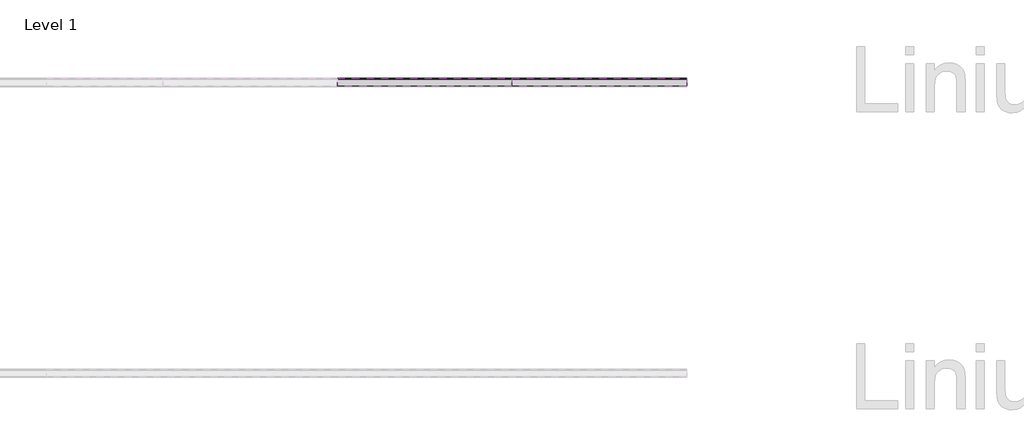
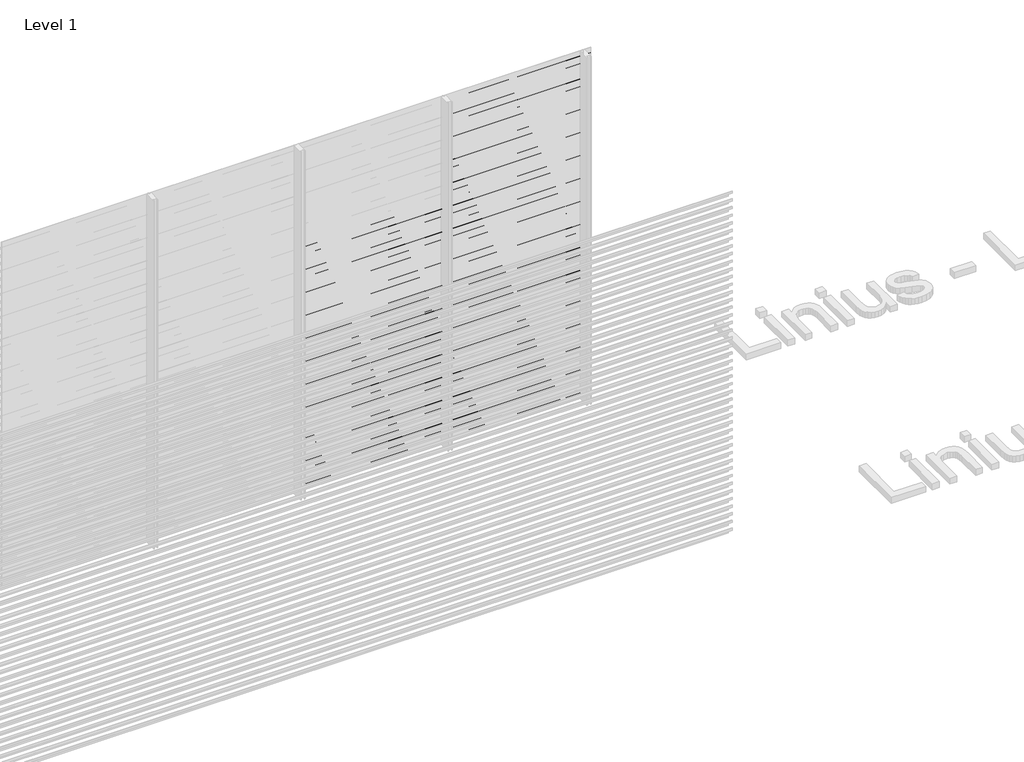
# One storey, part 82 of 540: 77 proxies.
"""IFC4 building model written with IfcOpenShell, lengths in millimetres."""

from ifc_helpers import new_model, si_unit, frame, origin, place, context, project, spatial, polyline, outline, extrude, element, save

model = new_model("IFC4")

# Units and contexts
model_context = context("Model", 3, world=origin())
ifc_project = project(units=[si_unit("LENGTHUNIT", "METRE", prefix="MILLI")], contexts=[model_context])

# Site, building, storey
site = spatial("IfcSite", under=ifc_project)
building = spatial("IfcBuilding", under=site)
storey = spatial("IfcBuildingStorey", under=building, Name="Level 1", Elevation=0.0)

# Proxies
placement = place(None, origin())
element("IfcBuildingElementProxy", 1, Name="Wall Sweeps", at=placement, inside=storey, context=model_context, shape_type="SweptSolid", body=[
    extrude(outline(polyline([(51581.0540136, 2913.5), (51581.0540136, 2893.5), (51579.8040136, 2894.2216933), (51579.8040136, 2912.7872415), (51526.0540136, 2950.3158044), (51526.0540136, 2970.0), (51527.3040136, 2970.0), (51527.3040136, 2951.0285629), (51581.0540136, 2913.5)])), frame((5266.6208095, 0.0, 0.0), z_axis=(1.0, 0.0, 0.0), x_axis=(0.0, 1.0, 0.0)), (0.0, 0.0, 1.0), 1200.0000002),
])
element("IfcBuildingElementProxy", 2, Name="Wall Sweeps", at=placement, inside=storey, context=model_context, shape_type="SweptSolid", body=[
    extrude(outline(polyline([(51581.0540136, 2847.5), (51581.0540136, 2827.5), (51579.8040136, 2828.2216933), (51579.8040136, 2846.7872415), (51526.0540136, 2884.3158044), (51526.0540136, 2904.0), (51527.3040136, 2904.0), (51527.3040136, 2885.0285629), (51581.0540136, 2847.5)])), frame((5266.6208095, 0.0, 0.0), z_axis=(1.0, 0.0, 0.0), x_axis=(0.0, 1.0, 0.0)), (0.0, 0.0, 1.0), 1200.0000002),
])
element("IfcBuildingElementProxy", 3, Name="Wall Sweeps", at=placement, inside=storey, context=model_context, shape_type="SweptSolid", body=[
    extrude(outline(polyline([(51581.0540136, 2781.5), (51581.0540136, 2761.5), (51579.8040136, 2762.2216933), (51579.8040136, 2780.7872415), (51526.0540136, 2818.3158044), (51526.0540136, 2838.0), (51527.3040136, 2838.0), (51527.3040136, 2819.0285629), (51581.0540136, 2781.5)])), frame((5266.6208095, 0.0, 0.0), z_axis=(1.0, 0.0, 0.0), x_axis=(0.0, 1.0, 0.0)), (0.0, 0.0, 1.0), 1200.0000002),
])
element("IfcBuildingElementProxy", 4, Name="Wall Sweeps", at=placement, inside=storey, context=model_context, shape_type="SweptSolid", body=[
    extrude(outline(polyline([(51581.0540136, 2715.5), (51581.0540136, 2695.5), (51579.8040136, 2696.2216933), (51579.8040136, 2714.7872415), (51526.0540136, 2752.3158044), (51526.0540136, 2772.0), (51527.3040136, 2772.0), (51527.3040136, 2753.0285629), (51581.0540136, 2715.5)])), frame((5266.6208095, 0.0, 0.0), z_axis=(1.0, 0.0, 0.0), x_axis=(0.0, 1.0, 0.0)), (0.0, 0.0, 1.0), 1200.0000002),
])
element("IfcBuildingElementProxy", 5, Name="Wall Sweeps", at=placement, inside=storey, context=model_context, shape_type="SweptSolid", body=[
    extrude(outline(polyline([(51581.0540136, 2649.5), (51581.0540136, 2629.5), (51579.8040136, 2630.2216933), (51579.8040136, 2648.7872415), (51526.0540136, 2686.3158044), (51526.0540136, 2706.0), (51527.3040136, 2706.0), (51527.3040136, 2687.0285629), (51581.0540136, 2649.5)])), frame((5266.6208095, 0.0, 0.0), z_axis=(1.0, 0.0, 0.0), x_axis=(0.0, 1.0, 0.0)), (0.0, 0.0, 1.0), 1200.0000002),
])
element("IfcBuildingElementProxy", 6, Name="Wall Sweeps", at=placement, inside=storey, context=model_context, shape_type="SweptSolid", body=[
    extrude(outline(polyline([(51581.0540136, 2583.5), (51581.0540136, 2563.5), (51579.8040136, 2564.2216933), (51579.8040136, 2582.7872415), (51526.0540136, 2620.3158044), (51526.0540136, 2640.0), (51527.3040136, 2640.0), (51527.3040136, 2621.0285629), (51581.0540136, 2583.5)])), frame((5266.6208095, 0.0, 0.0), z_axis=(1.0, 0.0, 0.0), x_axis=(0.0, 1.0, 0.0)), (0.0, 0.0, 1.0), 1200.0000002),
])
element("IfcBuildingElementProxy", 7, Name="Wall Sweeps", at=placement, inside=storey, context=model_context, shape_type="SweptSolid", body=[
    extrude(outline(polyline([(51581.0540136, 2517.5), (51581.0540136, 2497.5), (51579.8040136, 2498.2216933), (51579.8040136, 2516.7872415), (51526.0540136, 2554.3158044), (51526.0540136, 2574.0), (51527.3040136, 2574.0), (51527.3040136, 2555.0285629), (51581.0540136, 2517.5)])), frame((5266.6208095, 0.0, 0.0), z_axis=(1.0, 0.0, 0.0), x_axis=(0.0, 1.0, 0.0)), (0.0, 0.0, 1.0), 1200.0000002),
])
element("IfcBuildingElementProxy", 8, Name="Wall Sweeps", at=placement, inside=storey, context=model_context, shape_type="SweptSolid", body=[
    extrude(outline(polyline([(51581.0540136, 2451.5), (51581.0540136, 2431.5), (51579.8040136, 2432.2216933), (51579.8040136, 2450.7872415), (51526.0540136, 2488.3158044), (51526.0540136, 2508.0), (51527.3040136, 2508.0), (51527.3040136, 2489.0285629), (51581.0540136, 2451.5)])), frame((5266.6208095, 0.0, 0.0), z_axis=(1.0, 0.0, 0.0), x_axis=(0.0, 1.0, 0.0)), (0.0, 0.0, 1.0), 1200.0000002),
])
element("IfcBuildingElementProxy", 9, Name="Wall Sweeps", at=placement, inside=storey, context=model_context, shape_type="SweptSolid", body=[
    extrude(outline(polyline([(51581.0540136, 2385.5), (51581.0540136, 2365.5), (51579.8040136, 2366.2216933), (51579.8040136, 2384.7872415), (51526.0540136, 2422.3158044), (51526.0540136, 2442.0), (51527.3040136, 2442.0), (51527.3040136, 2423.0285629), (51581.0540136, 2385.5)])), frame((5266.6208095, 0.0, 0.0), z_axis=(1.0, 0.0, 0.0), x_axis=(0.0, 1.0, 0.0)), (0.0, 0.0, 1.0), 1200.0000002),
])
element("IfcBuildingElementProxy", 10, Name="Wall Sweeps", at=placement, inside=storey, context=model_context, shape_type="SweptSolid", body=[
    extrude(outline(polyline([(51581.0540136, 2319.5), (51581.0540136, 2299.5), (51579.8040136, 2300.2216933), (51579.8040136, 2318.7872415), (51526.0540136, 2356.3158044), (51526.0540136, 2376.0), (51527.3040136, 2376.0), (51527.3040136, 2357.0285629), (51581.0540136, 2319.5)])), frame((5266.6208095, 0.0, 0.0), z_axis=(1.0, 0.0, 0.0), x_axis=(0.0, 1.0, 0.0)), (0.0, 0.0, 1.0), 1200.0000002),
])
element("IfcBuildingElementProxy", 11, Name="Wall Sweeps", at=placement, inside=storey, context=model_context, shape_type="SweptSolid", body=[
    extrude(outline(polyline([(51581.0540136, 2253.5), (51581.0540136, 2233.5), (51579.8040136, 2234.2216933), (51579.8040136, 2252.7872415), (51526.0540136, 2290.3158044), (51526.0540136, 2310.0), (51527.3040136, 2310.0), (51527.3040136, 2291.0285629), (51581.0540136, 2253.5)])), frame((5266.6208095, 0.0, 0.0), z_axis=(1.0, 0.0, 0.0), x_axis=(0.0, 1.0, 0.0)), (0.0, 0.0, 1.0), 1200.0000002),
])
element("IfcBuildingElementProxy", 12, Name="Wall Sweeps", at=placement, inside=storey, context=model_context, shape_type="SweptSolid", body=[
    extrude(outline(polyline([(51581.0540136, 2187.5), (51581.0540136, 2167.5), (51579.8040136, 2168.2216933), (51579.8040136, 2186.7872415), (51526.0540136, 2224.3158044), (51526.0540136, 2244.0), (51527.3040136, 2244.0), (51527.3040136, 2225.0285629), (51581.0540136, 2187.5)])), frame((5266.6208095, 0.0, 0.0), z_axis=(1.0, 0.0, 0.0), x_axis=(0.0, 1.0, 0.0)), (0.0, 0.0, 1.0), 1200.0000002),
])
element("IfcBuildingElementProxy", 13, Name="Wall Sweeps", at=placement, inside=storey, context=model_context, shape_type="SweptSolid", body=[
    extrude(outline(polyline([(51581.0540136, 2121.5), (51581.0540136, 2101.5), (51579.8040136, 2102.2216933), (51579.8040136, 2120.7872415), (51526.0540136, 2158.3158044), (51526.0540136, 2178.0), (51527.3040136, 2178.0), (51527.3040136, 2159.0285629), (51581.0540136, 2121.5)])), frame((5266.6208095, 0.0, 0.0), z_axis=(1.0, 0.0, 0.0), x_axis=(0.0, 1.0, 0.0)), (0.0, 0.0, 1.0), 1200.0000002),
])
element("IfcBuildingElementProxy", 14, Name="Wall Sweeps", at=placement, inside=storey, context=model_context, shape_type="SweptSolid", body=[
    extrude(outline(polyline([(51581.0540136, 2055.5), (51581.0540136, 2035.5), (51579.8040136, 2036.2216933), (51579.8040136, 2054.7872415), (51526.0540136, 2092.3158044), (51526.0540136, 2112.0), (51527.3040136, 2112.0), (51527.3040136, 2093.0285629), (51581.0540136, 2055.5)])), frame((5266.6208095, 0.0, 0.0), z_axis=(1.0, 0.0, 0.0), x_axis=(0.0, 1.0, 0.0)), (0.0, 0.0, 1.0), 1200.0000002),
])
element("IfcBuildingElementProxy", 15, Name="Wall Sweeps", at=placement, inside=storey, context=model_context, shape_type="SweptSolid", body=[
    extrude(outline(polyline([(51581.0540136, 1989.5), (51581.0540136, 1969.5), (51579.8040136, 1970.2216933), (51579.8040136, 1988.7872415), (51526.0540136, 2026.3158044), (51526.0540136, 2046.0), (51527.3040136, 2046.0), (51527.3040136, 2027.0285629), (51581.0540136, 1989.5)])), frame((5266.6208095, 0.0, 0.0), z_axis=(1.0, 0.0, 0.0), x_axis=(0.0, 1.0, 0.0)), (0.0, 0.0, 1.0), 1200.0000002),
])
element("IfcBuildingElementProxy", 16, Name="Wall Sweeps", at=placement, inside=storey, context=model_context, shape_type="SweptSolid", body=[
    extrude(outline(polyline([(51581.0540136, 1923.5), (51581.0540136, 1903.5), (51579.8040136, 1904.2216933), (51579.8040136, 1922.7872415), (51526.0540136, 1960.3158044), (51526.0540136, 1980.0), (51527.3040136, 1980.0), (51527.3040136, 1961.0285629), (51581.0540136, 1923.5)])), frame((5266.6208095, 0.0, 0.0), z_axis=(1.0, 0.0, 0.0), x_axis=(0.0, 1.0, 0.0)), (0.0, 0.0, 1.0), 1200.0000002),
])
element("IfcBuildingElementProxy", 17, Name="Wall Sweeps", at=placement, inside=storey, context=model_context, shape_type="SweptSolid", body=[
    extrude(outline(polyline([(51581.0540136, 1857.5), (51581.0540136, 1837.5), (51579.8040136, 1838.2216933), (51579.8040136, 1856.7872415), (51526.0540136, 1894.3158044), (51526.0540136, 1914.0), (51527.3040136, 1914.0), (51527.3040136, 1895.0285629), (51581.0540136, 1857.5)])), frame((5266.6208095, 0.0, 0.0), z_axis=(1.0, 0.0, 0.0), x_axis=(0.0, 1.0, 0.0)), (0.0, 0.0, 1.0), 1200.0000002),
])
element("IfcBuildingElementProxy", 18, Name="Wall Sweeps", at=placement, inside=storey, context=model_context, shape_type="SweptSolid", body=[
    extrude(outline(polyline([(51581.0540136, 1791.5), (51581.0540136, 1771.5), (51579.8040136, 1772.2216933), (51579.8040136, 1790.7872415), (51526.0540136, 1828.3158044), (51526.0540136, 1848.0), (51527.3040136, 1848.0), (51527.3040136, 1829.0285629), (51581.0540136, 1791.5)])), frame((5266.6208095, 0.0, 0.0), z_axis=(1.0, 0.0, 0.0), x_axis=(0.0, 1.0, 0.0)), (0.0, 0.0, 1.0), 1200.0000002),
])
element("IfcBuildingElementProxy", 19, Name="Wall Sweeps", at=placement, inside=storey, context=model_context, shape_type="SweptSolid", body=[
    extrude(outline(polyline([(51581.0540136, 1725.5), (51581.0540136, 1705.5), (51579.8040136, 1706.2216933), (51579.8040136, 1724.7872415), (51526.0540136, 1762.3158044), (51526.0540136, 1782.0), (51527.3040136, 1782.0), (51527.3040136, 1763.0285629), (51581.0540136, 1725.5)])), frame((5266.6208095, 0.0, 0.0), z_axis=(1.0, 0.0, 0.0), x_axis=(0.0, 1.0, 0.0)), (0.0, 0.0, 1.0), 1200.0000002),
])
element("IfcBuildingElementProxy", 20, Name="Wall Sweeps", at=placement, inside=storey, context=model_context, shape_type="SweptSolid", body=[
    extrude(outline(polyline([(51581.0540136, 1659.5), (51581.0540136, 1639.5), (51579.8040136, 1640.2216933), (51579.8040136, 1658.7872415), (51526.0540136, 1696.3158044), (51526.0540136, 1716.0), (51527.3040136, 1716.0), (51527.3040136, 1697.0285629), (51581.0540136, 1659.5)])), frame((5266.6208095, 0.0, 0.0), z_axis=(1.0, 0.0, 0.0), x_axis=(0.0, 1.0, 0.0)), (0.0, 0.0, 1.0), 1200.0000002),
])
element("IfcBuildingElementProxy", 21, Name="Wall Sweeps", at=placement, inside=storey, context=model_context, shape_type="SweptSolid", body=[
    extrude(outline(polyline([(51581.0540136, 1593.5), (51581.0540136, 1573.5), (51579.8040136, 1574.2216933), (51579.8040136, 1592.7872415), (51526.0540136, 1630.3158044), (51526.0540136, 1650.0), (51527.3040136, 1650.0), (51527.3040136, 1631.0285629), (51581.0540136, 1593.5)])), frame((5266.6208095, 0.0, 0.0), z_axis=(1.0, 0.0, 0.0), x_axis=(0.0, 1.0, 0.0)), (0.0, 0.0, 1.0), 1200.0000002),
])
element("IfcBuildingElementProxy", 22, Name="Wall Sweeps", at=placement, inside=storey, context=model_context, shape_type="SweptSolid", body=[
    extrude(outline(polyline([(51581.0540136, 1527.5), (51581.0540136, 1507.5), (51579.8040136, 1508.2216933), (51579.8040136, 1526.7872415), (51526.0540136, 1564.3158044), (51526.0540136, 1584.0), (51527.3040136, 1584.0), (51527.3040136, 1565.0285629), (51581.0540136, 1527.5)])), frame((5266.6208095, 0.0, 0.0), z_axis=(1.0, 0.0, 0.0), x_axis=(0.0, 1.0, 0.0)), (0.0, 0.0, 1.0), 1200.0000002),
])
element("IfcBuildingElementProxy", 23, Name="Wall Sweeps", at=placement, inside=storey, context=model_context, shape_type="SweptSolid", body=[
    extrude(outline(polyline([(51581.0540136, 1461.5), (51581.0540136, 1441.5), (51579.8040136, 1442.2216933), (51579.8040136, 1460.7872415), (51526.0540136, 1498.3158044), (51526.0540136, 1518.0), (51527.3040136, 1518.0), (51527.3040136, 1499.0285629), (51581.0540136, 1461.5)])), frame((5266.6208095, 0.0, 0.0), z_axis=(1.0, 0.0, 0.0), x_axis=(0.0, 1.0, 0.0)), (0.0, 0.0, 1.0), 1200.0000002),
])
element("IfcBuildingElementProxy", 24, Name="Wall Sweeps", at=placement, inside=storey, context=model_context, shape_type="SweptSolid", body=[
    extrude(outline(polyline([(51581.0540136, 1395.5), (51581.0540136, 1375.5), (51579.8040136, 1376.2216933), (51579.8040136, 1394.7872415), (51526.0540136, 1432.3158044), (51526.0540136, 1452.0), (51527.3040136, 1452.0), (51527.3040136, 1433.0285629), (51581.0540136, 1395.5)])), frame((5266.6208095, 0.0, 0.0), z_axis=(1.0, 0.0, 0.0), x_axis=(0.0, 1.0, 0.0)), (0.0, 0.0, 1.0), 1200.0000002),
])
element("IfcBuildingElementProxy", 25, Name="Wall Sweeps", at=placement, inside=storey, context=model_context, shape_type="SweptSolid", body=[
    extrude(outline(polyline([(51581.0540136, 1329.5), (51581.0540136, 1309.5), (51579.8040136, 1310.2216933), (51579.8040136, 1328.7872415), (51526.0540136, 1366.3158044), (51526.0540136, 1386.0), (51527.3040136, 1386.0), (51527.3040136, 1367.0285629), (51581.0540136, 1329.5)])), frame((5266.6208095, 0.0, 0.0), z_axis=(1.0, 0.0, 0.0), x_axis=(0.0, 1.0, 0.0)), (0.0, 0.0, 1.0), 1200.0000002),
])
element("IfcBuildingElementProxy", 26, Name="Wall Sweeps", at=placement, inside=storey, context=model_context, shape_type="SweptSolid", body=[
    extrude(outline(polyline([(51581.0540136, 1263.5), (51581.0540136, 1243.5), (51579.8040136, 1244.2216933), (51579.8040136, 1262.7872415), (51526.0540136, 1300.3158044), (51526.0540136, 1320.0), (51527.3040136, 1320.0), (51527.3040136, 1301.0285629), (51581.0540136, 1263.5)])), frame((5266.6208095, 0.0, 0.0), z_axis=(1.0, 0.0, 0.0), x_axis=(0.0, 1.0, 0.0)), (0.0, 0.0, 1.0), 1200.0000002),
])
element("IfcBuildingElementProxy", 27, Name="Wall Sweeps", at=placement, inside=storey, context=model_context, shape_type="SweptSolid", body=[
    extrude(outline(polyline([(51581.0540136, 1197.5), (51581.0540136, 1177.5), (51579.8040136, 1178.2216933), (51579.8040136, 1196.7872415), (51526.0540136, 1234.3158044), (51526.0540136, 1254.0), (51527.3040136, 1254.0), (51527.3040136, 1235.0285629), (51581.0540136, 1197.5)])), frame((5266.6208095, 0.0, 0.0), z_axis=(1.0, 0.0, 0.0), x_axis=(0.0, 1.0, 0.0)), (0.0, 0.0, 1.0), 1200.0000002),
])
element("IfcBuildingElementProxy", 28, Name="Wall Sweeps", at=placement, inside=storey, context=model_context, shape_type="SweptSolid", body=[
    extrude(outline(polyline([(51581.0540136, 1131.5), (51581.0540136, 1111.5), (51579.8040136, 1112.2216933), (51579.8040136, 1130.7872415), (51526.0540136, 1168.3158044), (51526.0540136, 1188.0), (51527.3040136, 1188.0), (51527.3040136, 1169.0285629), (51581.0540136, 1131.5)])), frame((5266.6208095, 0.0, 0.0), z_axis=(1.0, 0.0, 0.0), x_axis=(0.0, 1.0, 0.0)), (0.0, 0.0, 1.0), 1200.0000002),
])
element("IfcBuildingElementProxy", 29, Name="Wall Sweeps", at=placement, inside=storey, context=model_context, shape_type="SweptSolid", body=[
    extrude(outline(polyline([(51581.0540136, 1065.5), (51581.0540136, 1045.5), (51579.8040136, 1046.2216933), (51579.8040136, 1064.7872415), (51526.0540136, 1102.3158044), (51526.0540136, 1122.0), (51527.3040136, 1122.0), (51527.3040136, 1103.0285629), (51581.0540136, 1065.5)])), frame((5266.6208095, 0.0, 0.0), z_axis=(1.0, 0.0, 0.0), x_axis=(0.0, 1.0, 0.0)), (0.0, 0.0, 1.0), 1200.0000002),
])
element("IfcBuildingElementProxy", 30, Name="Wall Sweeps", at=placement, inside=storey, context=model_context, shape_type="SweptSolid", body=[
    extrude(outline(polyline([(51581.0540136, 999.5), (51581.0540136, 979.5), (51579.8040136, 980.2216933), (51579.8040136, 998.7872415), (51526.0540136, 1036.3158044), (51526.0540136, 1056.0), (51527.3040136, 1056.0), (51527.3040136, 1037.0285629), (51581.0540136, 999.5)])), frame((5266.6208095, 0.0, 0.0), z_axis=(1.0, 0.0, 0.0), x_axis=(0.0, 1.0, 0.0)), (0.0, 0.0, 1.0), 1200.0000002),
])
element("IfcBuildingElementProxy", 31, Name="Wall Sweeps", at=placement, inside=storey, context=model_context, shape_type="SweptSolid", body=[
    extrude(outline(polyline([(51581.0540136, 933.5), (51581.0540136, 913.5), (51579.8040136, 914.2216933), (51579.8040136, 932.7872415), (51526.0540136, 970.3158044), (51526.0540136, 990.0), (51527.3040136, 990.0), (51527.3040136, 971.0285629), (51581.0540136, 933.5)])), frame((5266.6208095, 0.0, 0.0), z_axis=(1.0, 0.0, 0.0), x_axis=(0.0, 1.0, 0.0)), (0.0, 0.0, 1.0), 1200.0000002),
])
element("IfcBuildingElementProxy", 32, Name="Wall Sweeps", at=placement, inside=storey, context=model_context, shape_type="SweptSolid", body=[
    extrude(outline(polyline([(51581.0540136, 867.5), (51581.0540136, 847.5), (51579.8040136, 848.2216933), (51579.8040136, 866.7872415), (51526.0540136, 904.3158044), (51526.0540136, 924.0), (51527.3040136, 924.0), (51527.3040136, 905.0285629), (51581.0540136, 867.5)])), frame((5266.6208095, 0.0, 0.0), z_axis=(1.0, 0.0, 0.0), x_axis=(0.0, 1.0, 0.0)), (0.0, 0.0, 1.0), 1200.0000002),
])
element("IfcBuildingElementProxy", 33, Name="Wall Sweeps", at=placement, inside=storey, context=model_context, shape_type="SweptSolid", body=[
    extrude(outline(polyline([(51581.0540136, 801.5), (51581.0540136, 781.5), (51579.8040136, 782.2216933), (51579.8040136, 800.7872415), (51526.0540136, 838.3158044), (51526.0540136, 858.0), (51527.3040136, 858.0), (51527.3040136, 839.0285629), (51581.0540136, 801.5)])), frame((5266.6208095, 0.0, 0.0), z_axis=(1.0, 0.0, 0.0), x_axis=(0.0, 1.0, 0.0)), (0.0, 0.0, 1.0), 1200.0000002),
])
element("IfcBuildingElementProxy", 34, Name="Wall Sweeps", at=placement, inside=storey, context=model_context, shape_type="SweptSolid", body=[
    extrude(outline(polyline([(51581.0540136, 735.5), (51581.0540136, 715.5), (51579.8040136, 716.2216933), (51579.8040136, 734.7872415), (51526.0540136, 772.3158044), (51526.0540136, 792.0), (51527.3040136, 792.0), (51527.3040136, 773.0285629), (51581.0540136, 735.5)])), frame((5266.6208095, 0.0, 0.0), z_axis=(1.0, 0.0, 0.0), x_axis=(0.0, 1.0, 0.0)), (0.0, 0.0, 1.0), 1200.0000002),
])
element("IfcBuildingElementProxy", 35, Name="Wall Sweeps", at=placement, inside=storey, context=model_context, shape_type="SweptSolid", body=[
    extrude(outline(polyline([(51581.0540136, 669.5), (51581.0540136, 649.5), (51579.8040136, 650.2216933), (51579.8040136, 668.7872415), (51526.0540136, 706.3158044), (51526.0540136, 726.0), (51527.3040136, 726.0), (51527.3040136, 707.0285629), (51581.0540136, 669.5)])), frame((5266.6208095, 0.0, 0.0), z_axis=(1.0, 0.0, 0.0), x_axis=(0.0, 1.0, 0.0)), (0.0, 0.0, 1.0), 1200.0000002),
])
element("IfcBuildingElementProxy", 36, Name="Wall Sweeps", at=placement, inside=storey, context=model_context, shape_type="SweptSolid", body=[
    extrude(outline(polyline([(51581.0540136, 603.5), (51581.0540136, 583.5), (51579.8040136, 584.2216933), (51579.8040136, 602.7872415), (51526.0540136, 640.3158044), (51526.0540136, 660.0), (51527.3040136, 660.0), (51527.3040136, 641.0285629), (51581.0540136, 603.5)])), frame((5266.6208095, 0.0, 0.0), z_axis=(1.0, 0.0, 0.0), x_axis=(0.0, 1.0, 0.0)), (0.0, 0.0, 1.0), 1200.0000002),
])
element("IfcBuildingElementProxy", 37, Name="Wall Sweeps", at=placement, inside=storey, context=model_context, shape_type="SweptSolid", body=[
    extrude(outline(polyline([(51581.0540136, 537.5), (51581.0540136, 517.5), (51579.8040136, 518.2216933), (51579.8040136, 536.7872415), (51526.0540136, 574.3158044), (51526.0540136, 594.0), (51527.3040136, 594.0), (51527.3040136, 575.0285629), (51581.0540136, 537.5)])), frame((5266.6208095, 0.0, 0.0), z_axis=(1.0, 0.0, 0.0), x_axis=(0.0, 1.0, 0.0)), (0.0, 0.0, 1.0), 1200.0000002),
])
element("IfcBuildingElementProxy", 38, Name="Wall Sweeps", at=placement, inside=storey, context=model_context, shape_type="SweptSolid", body=[
    extrude(outline(polyline([(51581.0540136, 471.5), (51581.0540136, 451.5), (51579.8040136, 452.2216933), (51579.8040136, 470.7872415), (51526.0540136, 508.3158044), (51526.0540136, 528.0), (51527.3040136, 528.0), (51527.3040136, 509.0285629), (51581.0540136, 471.5)])), frame((5266.6208095, 0.0, 0.0), z_axis=(1.0, 0.0, 0.0), x_axis=(0.0, 1.0, 0.0)), (0.0, 0.0, 1.0), 1200.0000002),
])
element("IfcBuildingElementProxy", 39, Name="Wall Sweeps", at=placement, inside=storey, context=model_context, shape_type="SweptSolid", body=[
    extrude(outline(polyline([(51581.0540136, 405.5), (51581.0540136, 385.5), (51579.8040136, 386.2216933), (51579.8040136, 404.7872415), (51526.0540136, 442.3158044), (51526.0540136, 462.0), (51527.3040136, 462.0), (51527.3040136, 443.0285629), (51581.0540136, 405.5)])), frame((5266.6208095, 0.0, 0.0), z_axis=(1.0, 0.0, 0.0), x_axis=(0.0, 1.0, 0.0)), (0.0, 0.0, 1.0), 1200.0000002),
])
element("IfcBuildingElementProxy", 40, Name="Wall Sweeps", at=placement, inside=storey, context=model_context, shape_type="SweptSolid", body=[
    extrude(outline(polyline([(51581.0540136, 339.5), (51581.0540136, 319.5), (51579.8040136, 320.2216933), (51579.8040136, 338.7872415), (51526.0540136, 376.3158044), (51526.0540136, 396.0), (51527.3040136, 396.0), (51527.3040136, 377.0285629), (51581.0540136, 339.5)])), frame((5266.6208095, 0.0, 0.0), z_axis=(1.0, 0.0, 0.0), x_axis=(0.0, 1.0, 0.0)), (0.0, 0.0, 1.0), 1200.0000002),
])
element("IfcBuildingElementProxy", 41, Name="Wall Sweeps", at=placement, inside=storey, context=model_context, shape_type="SweptSolid", body=[
    extrude(outline(polyline([(51581.0540136, 273.5), (51581.0540136, 253.5), (51579.8040136, 254.2216933), (51579.8040136, 272.7872415), (51526.0540136, 310.3158044), (51526.0540136, 330.0), (51527.3040136, 330.0), (51527.3040136, 311.0285629), (51581.0540136, 273.5)])), frame((5266.6208095, 0.0, 0.0), z_axis=(1.0, 0.0, 0.0), x_axis=(0.0, 1.0, 0.0)), (0.0, 0.0, 1.0), 1200.0000002),
])
element("IfcBuildingElementProxy", 42, Name="Wall Sweeps", at=placement, inside=storey, context=model_context, shape_type="SweptSolid", body=[
    extrude(outline(polyline([(51581.0540136, 207.5), (51581.0540136, 187.5), (51579.8040136, 188.2216933), (51579.8040136, 206.7872415), (51526.0540136, 244.3158044), (51526.0540136, 264.0), (51527.3040136, 264.0), (51527.3040136, 245.0285629), (51581.0540136, 207.5)])), frame((5266.6208095, 0.0, 0.0), z_axis=(1.0, 0.0, 0.0), x_axis=(0.0, 1.0, 0.0)), (0.0, 0.0, 1.0), 1200.0000002),
])
element("IfcBuildingElementProxy", 43, Name="Wall Sweeps", at=placement, inside=storey, context=model_context, shape_type="SweptSolid", body=[
    extrude(outline(polyline([(51581.0540136, 141.5), (51581.0540136, 121.5), (51579.8040136, 122.2216933), (51579.8040136, 140.7872415), (51526.0540136, 178.3158044), (51526.0540136, 198.0), (51527.3040136, 198.0), (51527.3040136, 179.0285629), (51581.0540136, 141.5)])), frame((5266.6208095, 0.0, 0.0), z_axis=(1.0, 0.0, 0.0), x_axis=(0.0, 1.0, 0.0)), (0.0, 0.0, 1.0), 1200.0000002),
])
element("IfcBuildingElementProxy", 44, Name="Wall Sweeps", at=placement, inside=storey, context=model_context, shape_type="SweptSolid", body=[
    extrude(outline(polyline([(51581.0540136, 75.5), (51581.0540136, 55.5), (51579.8040136, 56.2216933), (51579.8040136, 74.7872415), (51526.0540136, 112.3158044), (51526.0540136, 132.0), (51527.3040136, 132.0), (51527.3040136, 113.0285629), (51581.0540136, 75.5)])), frame((5266.6208095, 0.0, 0.0), z_axis=(1.0, 0.0, 0.0), x_axis=(0.0, 1.0, 0.0)), (0.0, 0.0, 1.0), 1200.0000002),
])
element("IfcBuildingElementProxy", 45, Name="Wall Sweeps", at=placement, inside=storey, context=model_context, shape_type="SweptSolid", body=[
    extrude(outline(polyline([(51581.0540136, 9.5), (51581.0540136, -10.5), (51579.8040136, -9.7783067), (51579.8040136, 8.7872415), (51526.0540136, 46.3158044), (51526.0540136, 66.0), (51527.3040136, 66.0), (51527.3040136, 47.0285629), (51581.0540136, 9.5)])), frame((5266.6208095, 0.0, 0.0), z_axis=(1.0, 0.0, 0.0), x_axis=(0.0, 1.0, 0.0)), (0.0, 0.0, 1.0), 1200.0000002),
])
element("IfcBuildingElementProxy", 46, Name="Wall Sweeps", at=placement, inside=storey, context=model_context, shape_type="SweptSolid", body=[
    extrude(outline(polyline([(51581.0540136, 2055.5), (51581.0540136, 2035.5), (51579.8040136, 2036.2216933), (51579.8040136, 2054.7872415), (51526.0540136, 2092.3158044), (51526.0540136, 2112.0), (51527.3040136, 2112.0), (51527.3040136, 2093.0285629), (51581.0540136, 2055.5)])), frame((4066.6208096, 0.0, 0.0), z_axis=(1.0, 0.0, 0.0), x_axis=(0.0, 1.0, 0.0)), (0.0, 0.0, 1.0), 1199.9999999),
])
element("IfcBuildingElementProxy", 47, Name="Wall Sweeps", at=placement, inside=storey, context=model_context, shape_type="SweptSolid", body=[
    extrude(outline(polyline([(51581.0540136, 1989.5), (51581.0540136, 1969.5), (51579.8040136, 1970.2216933), (51579.8040136, 1988.7872415), (51526.0540136, 2026.3158044), (51526.0540136, 2046.0), (51527.3040136, 2046.0), (51527.3040136, 2027.0285629), (51581.0540136, 1989.5)])), frame((4066.6208096, 0.0, 0.0), z_axis=(1.0, 0.0, 0.0), x_axis=(0.0, 1.0, 0.0)), (0.0, 0.0, 1.0), 1199.9999999),
])
element("IfcBuildingElementProxy", 48, Name="Wall Sweeps", at=placement, inside=storey, context=model_context, shape_type="SweptSolid", body=[
    extrude(outline(polyline([(51581.0540136, 1923.5), (51581.0540136, 1903.5), (51579.8040136, 1904.2216933), (51579.8040136, 1922.7872415), (51526.0540136, 1960.3158044), (51526.0540136, 1980.0), (51527.3040136, 1980.0), (51527.3040136, 1961.0285629), (51581.0540136, 1923.5)])), frame((4066.6208096, 0.0, 0.0), z_axis=(1.0, 0.0, 0.0), x_axis=(0.0, 1.0, 0.0)), (0.0, 0.0, 1.0), 1199.9999999),
])
element("IfcBuildingElementProxy", 49, Name="Wall Sweeps", at=placement, inside=storey, context=model_context, shape_type="SweptSolid", body=[
    extrude(outline(polyline([(51581.0540136, 1857.5), (51581.0540136, 1837.5), (51579.8040136, 1838.2216933), (51579.8040136, 1856.7872415), (51526.0540136, 1894.3158044), (51526.0540136, 1914.0), (51527.3040136, 1914.0), (51527.3040136, 1895.0285629), (51581.0540136, 1857.5)])), frame((4066.6208096, 0.0, 0.0), z_axis=(1.0, 0.0, 0.0), x_axis=(0.0, 1.0, 0.0)), (0.0, 0.0, 1.0), 1199.9999999),
])
element("IfcBuildingElementProxy", 50, Name="Wall Sweeps", at=placement, inside=storey, context=model_context, shape_type="SweptSolid", body=[
    extrude(outline(polyline([(51581.0540136, 1791.5), (51581.0540136, 1771.5), (51579.8040136, 1772.2216933), (51579.8040136, 1790.7872415), (51526.0540136, 1828.3158044), (51526.0540136, 1848.0), (51527.3040136, 1848.0), (51527.3040136, 1829.0285629), (51581.0540136, 1791.5)])), frame((4066.6208096, 0.0, 0.0), z_axis=(1.0, 0.0, 0.0), x_axis=(0.0, 1.0, 0.0)), (0.0, 0.0, 1.0), 1199.9999999),
])
element("IfcBuildingElementProxy", 51, Name="Wall Sweeps", at=placement, inside=storey, context=model_context, shape_type="SweptSolid", body=[
    extrude(outline(polyline([(51581.0540136, 1725.5), (51581.0540136, 1705.5), (51579.8040136, 1706.2216933), (51579.8040136, 1724.7872415), (51526.0540136, 1762.3158044), (51526.0540136, 1782.0), (51527.3040136, 1782.0), (51527.3040136, 1763.0285629), (51581.0540136, 1725.5)])), frame((4066.6208096, 0.0, 0.0), z_axis=(1.0, 0.0, 0.0), x_axis=(0.0, 1.0, 0.0)), (0.0, 0.0, 1.0), 1199.9999999),
])
element("IfcBuildingElementProxy", 52, Name="Wall Sweeps", at=placement, inside=storey, context=model_context, shape_type="SweptSolid", body=[
    extrude(outline(polyline([(51581.0540136, 1659.5), (51581.0540136, 1639.5), (51579.8040136, 1640.2216933), (51579.8040136, 1658.7872415), (51526.0540136, 1696.3158044), (51526.0540136, 1716.0), (51527.3040136, 1716.0), (51527.3040136, 1697.0285629), (51581.0540136, 1659.5)])), frame((4066.6208096, 0.0, 0.0), z_axis=(1.0, 0.0, 0.0), x_axis=(0.0, 1.0, 0.0)), (0.0, 0.0, 1.0), 1199.9999999),
])
element("IfcBuildingElementProxy", 53, Name="Wall Sweeps", at=placement, inside=storey, context=model_context, shape_type="SweptSolid", body=[
    extrude(outline(polyline([(51581.0540136, 1593.5), (51581.0540136, 1573.5), (51579.8040136, 1574.2216933), (51579.8040136, 1592.7872415), (51526.0540136, 1630.3158044), (51526.0540136, 1650.0), (51527.3040136, 1650.0), (51527.3040136, 1631.0285629), (51581.0540136, 1593.5)])), frame((4066.6208096, 0.0, 0.0), z_axis=(1.0, 0.0, 0.0), x_axis=(0.0, 1.0, 0.0)), (0.0, 0.0, 1.0), 1199.9999999),
])
element("IfcBuildingElementProxy", 54, Name="Wall Sweeps", at=placement, inside=storey, context=model_context, shape_type="SweptSolid", body=[
    extrude(outline(polyline([(51581.0540136, 1527.5), (51581.0540136, 1507.5), (51579.8040136, 1508.2216933), (51579.8040136, 1526.7872415), (51526.0540136, 1564.3158044), (51526.0540136, 1584.0), (51527.3040136, 1584.0), (51527.3040136, 1565.0285629), (51581.0540136, 1527.5)])), frame((4066.6208096, 0.0, 0.0), z_axis=(1.0, 0.0, 0.0), x_axis=(0.0, 1.0, 0.0)), (0.0, 0.0, 1.0), 1199.9999999),
])
element("IfcBuildingElementProxy", 55, Name="Wall Sweeps", at=placement, inside=storey, context=model_context, shape_type="SweptSolid", body=[
    extrude(outline(polyline([(51581.0540136, 1461.5), (51581.0540136, 1441.5), (51579.8040136, 1442.2216933), (51579.8040136, 1460.7872415), (51526.0540136, 1498.3158044), (51526.0540136, 1518.0), (51527.3040136, 1518.0), (51527.3040136, 1499.0285629), (51581.0540136, 1461.5)])), frame((4066.6208096, 0.0, 0.0), z_axis=(1.0, 0.0, 0.0), x_axis=(0.0, 1.0, 0.0)), (0.0, 0.0, 1.0), 1199.9999999),
])
element("IfcBuildingElementProxy", 56, Name="Wall Sweeps", at=placement, inside=storey, context=model_context, shape_type="SweptSolid", body=[
    extrude(outline(polyline([(51581.0540136, 1395.5), (51581.0540136, 1375.5), (51579.8040136, 1376.2216933), (51579.8040136, 1394.7872415), (51526.0540136, 1432.3158044), (51526.0540136, 1452.0), (51527.3040136, 1452.0), (51527.3040136, 1433.0285629), (51581.0540136, 1395.5)])), frame((4066.6208096, 0.0, 0.0), z_axis=(1.0, 0.0, 0.0), x_axis=(0.0, 1.0, 0.0)), (0.0, 0.0, 1.0), 1199.9999999),
])
element("IfcBuildingElementProxy", 57, Name="Wall Sweeps", at=placement, inside=storey, context=model_context, shape_type="SweptSolid", body=[
    extrude(outline(polyline([(51581.0540136, 1329.5), (51581.0540136, 1309.5), (51579.8040136, 1310.2216933), (51579.8040136, 1328.7872415), (51526.0540136, 1366.3158044), (51526.0540136, 1386.0), (51527.3040136, 1386.0), (51527.3040136, 1367.0285629), (51581.0540136, 1329.5)])), frame((4066.6208096, 0.0, 0.0), z_axis=(1.0, 0.0, 0.0), x_axis=(0.0, 1.0, 0.0)), (0.0, 0.0, 1.0), 1199.9999999),
])
element("IfcBuildingElementProxy", 58, Name="Wall Sweeps", at=placement, inside=storey, context=model_context, shape_type="SweptSolid", body=[
    extrude(outline(polyline([(51581.0540136, 1263.5), (51581.0540136, 1243.5), (51579.8040136, 1244.2216933), (51579.8040136, 1262.7872415), (51526.0540136, 1300.3158044), (51526.0540136, 1320.0), (51527.3040136, 1320.0), (51527.3040136, 1301.0285629), (51581.0540136, 1263.5)])), frame((4066.6208096, 0.0, 0.0), z_axis=(1.0, 0.0, 0.0), x_axis=(0.0, 1.0, 0.0)), (0.0, 0.0, 1.0), 1199.9999999),
])
element("IfcBuildingElementProxy", 59, Name="Wall Sweeps", at=placement, inside=storey, context=model_context, shape_type="SweptSolid", body=[
    extrude(outline(polyline([(51581.0540136, 1197.5), (51581.0540136, 1177.5), (51579.8040136, 1178.2216933), (51579.8040136, 1196.7872415), (51526.0540136, 1234.3158044), (51526.0540136, 1254.0), (51527.3040136, 1254.0), (51527.3040136, 1235.0285629), (51581.0540136, 1197.5)])), frame((4066.6208096, 0.0, 0.0), z_axis=(1.0, 0.0, 0.0), x_axis=(0.0, 1.0, 0.0)), (0.0, 0.0, 1.0), 1199.9999999),
])
element("IfcBuildingElementProxy", 60, Name="Wall Sweeps", at=placement, inside=storey, context=model_context, shape_type="SweptSolid", body=[
    extrude(outline(polyline([(51581.0540136, 1131.5), (51581.0540136, 1111.5), (51579.8040136, 1112.2216933), (51579.8040136, 1130.7872415), (51526.0540136, 1168.3158044), (51526.0540136, 1188.0), (51527.3040136, 1188.0), (51527.3040136, 1169.0285629), (51581.0540136, 1131.5)])), frame((4066.6208096, 0.0, 0.0), z_axis=(1.0, 0.0, 0.0), x_axis=(0.0, 1.0, 0.0)), (0.0, 0.0, 1.0), 1199.9999999),
])
element("IfcBuildingElementProxy", 61, Name="Wall Sweeps", at=placement, inside=storey, context=model_context, shape_type="SweptSolid", body=[
    extrude(outline(polyline([(51581.0540136, 1065.5), (51581.0540136, 1045.5), (51579.8040136, 1046.2216933), (51579.8040136, 1064.7872415), (51526.0540136, 1102.3158044), (51526.0540136, 1122.0), (51527.3040136, 1122.0), (51527.3040136, 1103.0285629), (51581.0540136, 1065.5)])), frame((4066.6208096, 0.0, 0.0), z_axis=(1.0, 0.0, 0.0), x_axis=(0.0, 1.0, 0.0)), (0.0, 0.0, 1.0), 1199.9999999),
])
element("IfcBuildingElementProxy", 62, Name="Wall Sweeps", at=placement, inside=storey, context=model_context, shape_type="SweptSolid", body=[
    extrude(outline(polyline([(51581.0540136, 999.5), (51581.0540136, 979.5), (51579.8040136, 980.2216933), (51579.8040136, 998.7872415), (51526.0540136, 1036.3158044), (51526.0540136, 1056.0), (51527.3040136, 1056.0), (51527.3040136, 1037.0285629), (51581.0540136, 999.5)])), frame((4066.6208096, 0.0, 0.0), z_axis=(1.0, 0.0, 0.0), x_axis=(0.0, 1.0, 0.0)), (0.0, 0.0, 1.0), 1199.9999999),
])
element("IfcBuildingElementProxy", 63, Name="Wall Sweeps", at=placement, inside=storey, context=model_context, shape_type="SweptSolid", body=[
    extrude(outline(polyline([(51581.0540136, 933.5), (51581.0540136, 913.5), (51579.8040136, 914.2216933), (51579.8040136, 932.7872415), (51526.0540136, 970.3158044), (51526.0540136, 990.0), (51527.3040136, 990.0), (51527.3040136, 971.0285629), (51581.0540136, 933.5)])), frame((4066.6208096, 0.0, 0.0), z_axis=(1.0, 0.0, 0.0), x_axis=(0.0, 1.0, 0.0)), (0.0, 0.0, 1.0), 1199.9999999),
])
element("IfcBuildingElementProxy", 64, Name="Wall Sweeps", at=placement, inside=storey, context=model_context, shape_type="SweptSolid", body=[
    extrude(outline(polyline([(51581.0540136, 867.5), (51581.0540136, 847.5), (51579.8040136, 848.2216933), (51579.8040136, 866.7872415), (51526.0540136, 904.3158044), (51526.0540136, 924.0), (51527.3040136, 924.0), (51527.3040136, 905.0285629), (51581.0540136, 867.5)])), frame((4066.6208096, 0.0, 0.0), z_axis=(1.0, 0.0, 0.0), x_axis=(0.0, 1.0, 0.0)), (0.0, 0.0, 1.0), 1199.9999999),
])
element("IfcBuildingElementProxy", 65, Name="Wall Sweeps", at=placement, inside=storey, context=model_context, shape_type="SweptSolid", body=[
    extrude(outline(polyline([(51581.0540136, 801.5), (51581.0540136, 781.5), (51579.8040136, 782.2216933), (51579.8040136, 800.7872415), (51526.0540136, 838.3158044), (51526.0540136, 858.0), (51527.3040136, 858.0), (51527.3040136, 839.0285629), (51581.0540136, 801.5)])), frame((4066.6208096, 0.0, 0.0), z_axis=(1.0, 0.0, 0.0), x_axis=(0.0, 1.0, 0.0)), (0.0, 0.0, 1.0), 1199.9999999),
])
element("IfcBuildingElementProxy", 66, Name="Wall Sweeps", at=placement, inside=storey, context=model_context, shape_type="SweptSolid", body=[
    extrude(outline(polyline([(51581.0540136, 735.5), (51581.0540136, 715.5), (51579.8040136, 716.2216933), (51579.8040136, 734.7872415), (51526.0540136, 772.3158044), (51526.0540136, 792.0), (51527.3040136, 792.0), (51527.3040136, 773.0285629), (51581.0540136, 735.5)])), frame((4066.6208096, 0.0, 0.0), z_axis=(1.0, 0.0, 0.0), x_axis=(0.0, 1.0, 0.0)), (0.0, 0.0, 1.0), 1199.9999999),
])
element("IfcBuildingElementProxy", 67, Name="Wall Sweeps", at=placement, inside=storey, context=model_context, shape_type="SweptSolid", body=[
    extrude(outline(polyline([(51581.0540136, 669.5), (51581.0540136, 649.5), (51579.8040136, 650.2216933), (51579.8040136, 668.7872415), (51526.0540136, 706.3158044), (51526.0540136, 726.0), (51527.3040136, 726.0), (51527.3040136, 707.0285629), (51581.0540136, 669.5)])), frame((4066.6208096, 0.0, 0.0), z_axis=(1.0, 0.0, 0.0), x_axis=(0.0, 1.0, 0.0)), (0.0, 0.0, 1.0), 1199.9999999),
])
element("IfcBuildingElementProxy", 68, Name="Wall Sweeps", at=placement, inside=storey, context=model_context, shape_type="SweptSolid", body=[
    extrude(outline(polyline([(51581.0540136, 603.5), (51581.0540136, 583.5), (51579.8040136, 584.2216933), (51579.8040136, 602.7872415), (51526.0540136, 640.3158044), (51526.0540136, 660.0), (51527.3040136, 660.0), (51527.3040136, 641.0285629), (51581.0540136, 603.5)])), frame((4066.6208096, 0.0, 0.0), z_axis=(1.0, 0.0, 0.0), x_axis=(0.0, 1.0, 0.0)), (0.0, 0.0, 1.0), 1199.9999999),
])
element("IfcBuildingElementProxy", 69, Name="Wall Sweeps", at=placement, inside=storey, context=model_context, shape_type="SweptSolid", body=[
    extrude(outline(polyline([(51581.0540136, 537.5), (51581.0540136, 517.5), (51579.8040136, 518.2216933), (51579.8040136, 536.7872415), (51526.0540136, 574.3158044), (51526.0540136, 594.0), (51527.3040136, 594.0), (51527.3040136, 575.0285629), (51581.0540136, 537.5)])), frame((4066.6208096, 0.0, 0.0), z_axis=(1.0, 0.0, 0.0), x_axis=(0.0, 1.0, 0.0)), (0.0, 0.0, 1.0), 1199.9999999),
])
element("IfcBuildingElementProxy", 70, Name="Wall Sweeps", at=placement, inside=storey, context=model_context, shape_type="SweptSolid", body=[
    extrude(outline(polyline([(51581.0540136, 471.5), (51581.0540136, 451.5), (51579.8040136, 452.2216933), (51579.8040136, 470.7872415), (51526.0540136, 508.3158044), (51526.0540136, 528.0), (51527.3040136, 528.0), (51527.3040136, 509.0285629), (51581.0540136, 471.5)])), frame((4066.6208096, 0.0, 0.0), z_axis=(1.0, 0.0, 0.0), x_axis=(0.0, 1.0, 0.0)), (0.0, 0.0, 1.0), 1199.9999999),
])
element("IfcBuildingElementProxy", 71, Name="Wall Sweeps", at=placement, inside=storey, context=model_context, shape_type="SweptSolid", body=[
    extrude(outline(polyline([(51581.0540136, 405.5), (51581.0540136, 385.5), (51579.8040136, 386.2216933), (51579.8040136, 404.7872415), (51526.0540136, 442.3158044), (51526.0540136, 462.0), (51527.3040136, 462.0), (51527.3040136, 443.0285629), (51581.0540136, 405.5)])), frame((4066.6208096, 0.0, 0.0), z_axis=(1.0, 0.0, 0.0), x_axis=(0.0, 1.0, 0.0)), (0.0, 0.0, 1.0), 1199.9999999),
])
element("IfcBuildingElementProxy", 72, Name="Wall Sweeps", at=placement, inside=storey, context=model_context, shape_type="SweptSolid", body=[
    extrude(outline(polyline([(51581.0540136, 339.5), (51581.0540136, 319.5), (51579.8040136, 320.2216933), (51579.8040136, 338.7872415), (51526.0540136, 376.3158044), (51526.0540136, 396.0), (51527.3040136, 396.0), (51527.3040136, 377.0285629), (51581.0540136, 339.5)])), frame((4066.6208096, 0.0, 0.0), z_axis=(1.0, 0.0, 0.0), x_axis=(0.0, 1.0, 0.0)), (0.0, 0.0, 1.0), 1199.9999999),
])
element("IfcBuildingElementProxy", 73, Name="Wall Sweeps", at=placement, inside=storey, context=model_context, shape_type="SweptSolid", body=[
    extrude(outline(polyline([(51581.0540136, 273.5), (51581.0540136, 253.5), (51579.8040136, 254.2216933), (51579.8040136, 272.7872415), (51526.0540136, 310.3158044), (51526.0540136, 330.0), (51527.3040136, 330.0), (51527.3040136, 311.0285629), (51581.0540136, 273.5)])), frame((4066.6208096, 0.0, 0.0), z_axis=(1.0, 0.0, 0.0), x_axis=(0.0, 1.0, 0.0)), (0.0, 0.0, 1.0), 1199.9999999),
])
element("IfcBuildingElementProxy", 74, Name="Wall Sweeps", at=placement, inside=storey, context=model_context, shape_type="SweptSolid", body=[
    extrude(outline(polyline([(51581.0540136, 207.5), (51581.0540136, 187.5), (51579.8040136, 188.2216933), (51579.8040136, 206.7872415), (51526.0540136, 244.3158044), (51526.0540136, 264.0), (51527.3040136, 264.0), (51527.3040136, 245.0285629), (51581.0540136, 207.5)])), frame((4066.6208096, 0.0, 0.0), z_axis=(1.0, 0.0, 0.0), x_axis=(0.0, 1.0, 0.0)), (0.0, 0.0, 1.0), 1199.9999999),
])
element("IfcBuildingElementProxy", 75, Name="Wall Sweeps", at=placement, inside=storey, context=model_context, shape_type="SweptSolid", body=[
    extrude(outline(polyline([(51581.0540136, 141.5), (51581.0540136, 121.5), (51579.8040136, 122.2216933), (51579.8040136, 140.7872415), (51526.0540136, 178.3158044), (51526.0540136, 198.0), (51527.3040136, 198.0), (51527.3040136, 179.0285629), (51581.0540136, 141.5)])), frame((4066.6208096, 0.0, 0.0), z_axis=(1.0, 0.0, 0.0), x_axis=(0.0, 1.0, 0.0)), (0.0, 0.0, 1.0), 1199.9999999),
])
element("IfcBuildingElementProxy", 76, Name="Wall Sweeps", at=placement, inside=storey, context=model_context, shape_type="SweptSolid", body=[
    extrude(outline(polyline([(51581.0540136, 75.5), (51581.0540136, 55.5), (51579.8040136, 56.2216933), (51579.8040136, 74.7872415), (51526.0540136, 112.3158044), (51526.0540136, 132.0), (51527.3040136, 132.0), (51527.3040136, 113.0285629), (51581.0540136, 75.5)])), frame((4066.6208096, 0.0, 0.0), z_axis=(1.0, 0.0, 0.0), x_axis=(0.0, 1.0, 0.0)), (0.0, 0.0, 1.0), 1199.9999999),
])
element("IfcBuildingElementProxy", 77, Name="Wall Sweeps", at=placement, inside=storey, context=model_context, shape_type="SweptSolid", body=[
    extrude(outline(polyline([(51581.0540136, 9.5), (51581.0540136, -10.5), (51579.8040136, -9.7783067), (51579.8040136, 8.7872415), (51526.0540136, 46.3158044), (51526.0540136, 66.0), (51527.3040136, 66.0), (51527.3040136, 47.0285629), (51581.0540136, 9.5)])), frame((4066.6208096, 0.0, 0.0), z_axis=(1.0, 0.0, 0.0), x_axis=(0.0, 1.0, 0.0)), (0.0, 0.0, 1.0), 1199.9999999),
])

save(model, "model.ifc")
